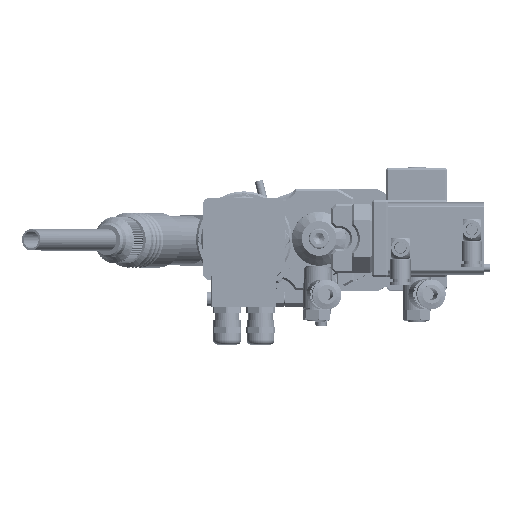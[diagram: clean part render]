
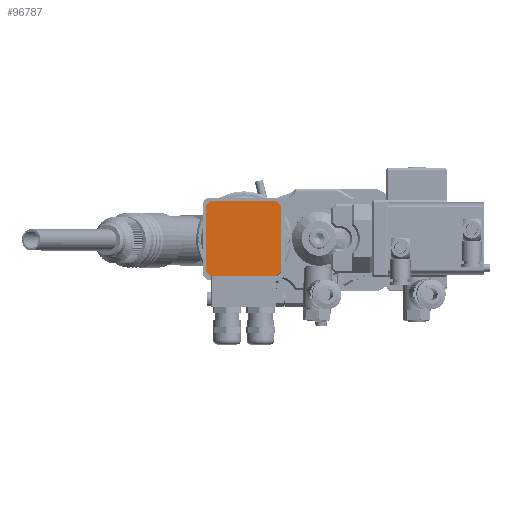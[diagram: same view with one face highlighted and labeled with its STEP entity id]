
A CAD part, top view. The second image highlights one B-rep face of the part: STEP entity #96787.
In plain terms, the highlighted planar face has unit normal (0, 0, 1) by its records, which use the part's own axes.
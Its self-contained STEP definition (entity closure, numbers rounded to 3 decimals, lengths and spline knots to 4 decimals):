
#9083=LINE('',#183413,#15589);
#9084=LINE('',#183415,#15590);
#9085=LINE('',#183417,#15591);
#9086=LINE('',#183419,#15592);
#15589=VECTOR('',#128783,3.2125);
#15590=VECTOR('',#128786,3.2125);
#15591=VECTOR('',#128789,3.2125);
#15592=VECTOR('',#128792,3.2125);
#19144=PLANE('',#105577);
#26561=FACE_OUTER_BOUND('',#33728,.T.);
#33728=EDGE_LOOP('',(#82040,#82041,#82042,#82043,#82044,#82045,#82046,#82047));
#38200=CIRCLE('',#105566,2.45);
#38201=CIRCLE('',#105568,2.45);
#38202=CIRCLE('',#105570,2.45);
#38203=CIRCLE('',#105572,2.45);
#46459=VERTEX_POINT('',#183389);
#46460=VERTEX_POINT('',#183391);
#46461=VERTEX_POINT('',#183395);
#46462=VERTEX_POINT('',#183397);
#46463=VERTEX_POINT('',#183401);
#46464=VERTEX_POINT('',#183403);
#46465=VERTEX_POINT('',#183407);
#46466=VERTEX_POINT('',#183409);
#58559=EDGE_CURVE('',#46460,#46459,#38200,.T.);
#58563=EDGE_CURVE('',#46461,#46462,#38201,.T.);
#58565=EDGE_CURVE('',#46464,#46463,#38202,.T.);
#58568=EDGE_CURVE('',#46466,#46465,#38203,.T.);
#58570=EDGE_CURVE('',#46464,#46459,#9083,.T.);
#58571=EDGE_CURVE('',#46466,#46463,#9084,.T.);
#58572=EDGE_CURVE('',#46461,#46465,#9085,.T.);
#58573=EDGE_CURVE('',#46460,#46462,#9086,.T.);
#82040=ORIENTED_EDGE('',*,*,#58559,.T.);
#82041=ORIENTED_EDGE('',*,*,#58570,.F.);
#82042=ORIENTED_EDGE('',*,*,#58565,.T.);
#82043=ORIENTED_EDGE('',*,*,#58571,.F.);
#82044=ORIENTED_EDGE('',*,*,#58568,.T.);
#82045=ORIENTED_EDGE('',*,*,#58572,.F.);
#82046=ORIENTED_EDGE('',*,*,#58563,.T.);
#82047=ORIENTED_EDGE('',*,*,#58573,.F.);
#96787=ADVANCED_FACE('',(#26561),#19144,.T.);
#105566=AXIS2_PLACEMENT_3D('',#183392,#128760,#128761);
#105568=AXIS2_PLACEMENT_3D('',#183399,#128767,#128768);
#105570=AXIS2_PLACEMENT_3D('',#183404,#128772,#128773);
#105572=AXIS2_PLACEMENT_3D('',#183410,#128778,#128779);
#105577=AXIS2_PLACEMENT_3D('',#183420,#128793,#128794);
#128760=DIRECTION('center_axis',(0.,0.,
1.));
#128761=DIRECTION('ref_axis',(-1.,0.,0.));
#128767=DIRECTION('center_axis',(0.,0.,
1.));
#128768=DIRECTION('ref_axis',(-1.,0.,0.));
#128772=DIRECTION('center_axis',(0.,0.,
1.));
#128773=DIRECTION('ref_axis',(-1.,0.,0.));
#128778=DIRECTION('center_axis',(0.,0.,
1.));
#128779=DIRECTION('ref_axis',(-1.,0.,0.));
#128783=DIRECTION('',(0.,-1.,0.));
#128786=DIRECTION('',(1.,0.,0.));
#128789=DIRECTION('',(0.,1.,0.));
#128792=DIRECTION('',(-1.,0.,0.));
#128793=DIRECTION('center_axis',(0.,0.,
1.));
#128794=DIRECTION('ref_axis',(-1.,0.,0.));
#183389=CARTESIAN_POINT('',(-6.65,-1.6062,29.1334));
#183391=CARTESIAN_POINT('',(-6.8938,-1.85,29.1334));
#183392=CARTESIAN_POINT('Origin',(-8.5,0.,
29.1334));
#183395=CARTESIAN_POINT('',(-10.35,-1.6062,29.1334));
#183397=CARTESIAN_POINT('',(-10.1062,-1.85,29.1334));
#183399=CARTESIAN_POINT('Origin',(-8.5,0.,
29.1334));
#183401=CARTESIAN_POINT('',(-6.8938,1.85,29.1334));
#183403=CARTESIAN_POINT('',(-6.65,1.6062,29.1334));
#183404=CARTESIAN_POINT('Origin',(-8.5,0.,
29.1334));
#183407=CARTESIAN_POINT('',(-10.35,1.6062,29.1334));
#183409=CARTESIAN_POINT('',(-10.1062,1.85,29.1334));
#183410=CARTESIAN_POINT('Origin',(-8.5,0.,
29.1334));
#183413=CARTESIAN_POINT('',(-6.65,1.6062,29.1334));
#183415=CARTESIAN_POINT('',(-10.1062,1.85,29.1334));
#183417=CARTESIAN_POINT('',(-10.35,-1.6062,29.1334));
#183419=CARTESIAN_POINT('',(-6.8938,-1.85,29.1334));
#183420=CARTESIAN_POINT('Origin',(-8.5,0.,
29.1334));
